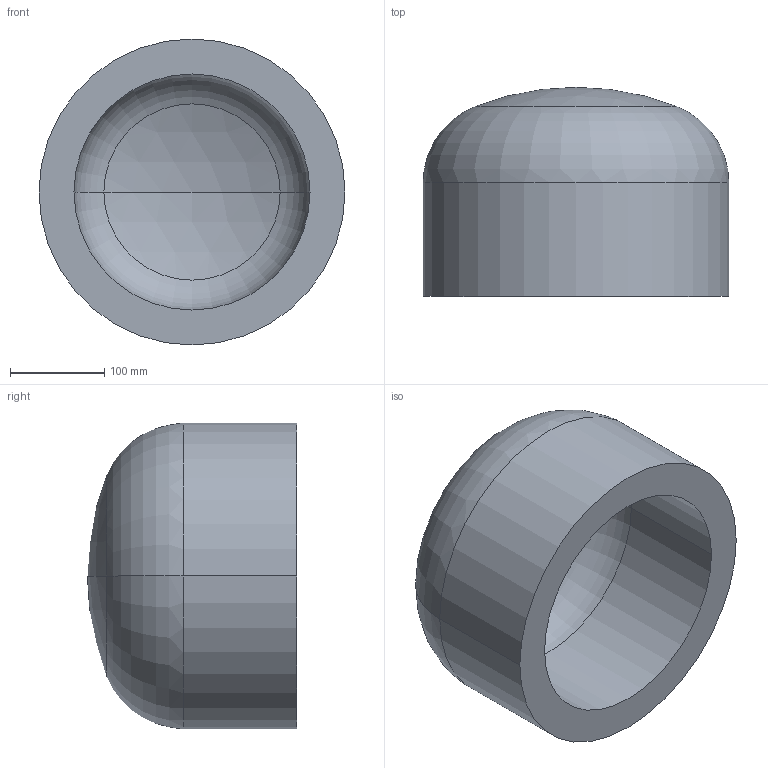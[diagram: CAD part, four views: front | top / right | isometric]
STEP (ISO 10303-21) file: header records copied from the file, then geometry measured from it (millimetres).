
FILE_DESCRIPTION (( 'STEP AP203' ), '1' );
FILE_NAME ('DIN 28013 Korbbogenform_-_Boden DIN 28013 - 323,9 x 120 - I - s=37.step', '2016-07-01T07:45:27', ( '' ), ( '' ), 'SwSTEP 2.0', 'SolidWorks 2013', '' );
FILE_SCHEMA (( 'CONFIG_CONTROL_DESIGN' ));
Length unit declared in the file: millimetre
Products named in the file (1): DIN 28013 Korbbogenform_-_Boden DIN 28013 - 323,9 x 120 - I - s=37
Bounding box: 323.9 x 221.27 x 323.9 mm (x, y, z)
Volume: 7676082.7 mm3; surface area: 451139.5 mm2
Topology: 1 solids, 1 shells, 13 faces, 24 edges, 14 vertices
Faces by surface type: torus 4, cylinder 4, sphere 4, plane 1
Entity records: 407 total; most frequent: DIRECTION 72, CARTESIAN_POINT 52, ORIENTED_EDGE 48, AXIS2_PLACEMENT_3D 34, EDGE_CURVE 24, CIRCLE 20, EDGE_LOOP 14, VERTEX_POINT 14
